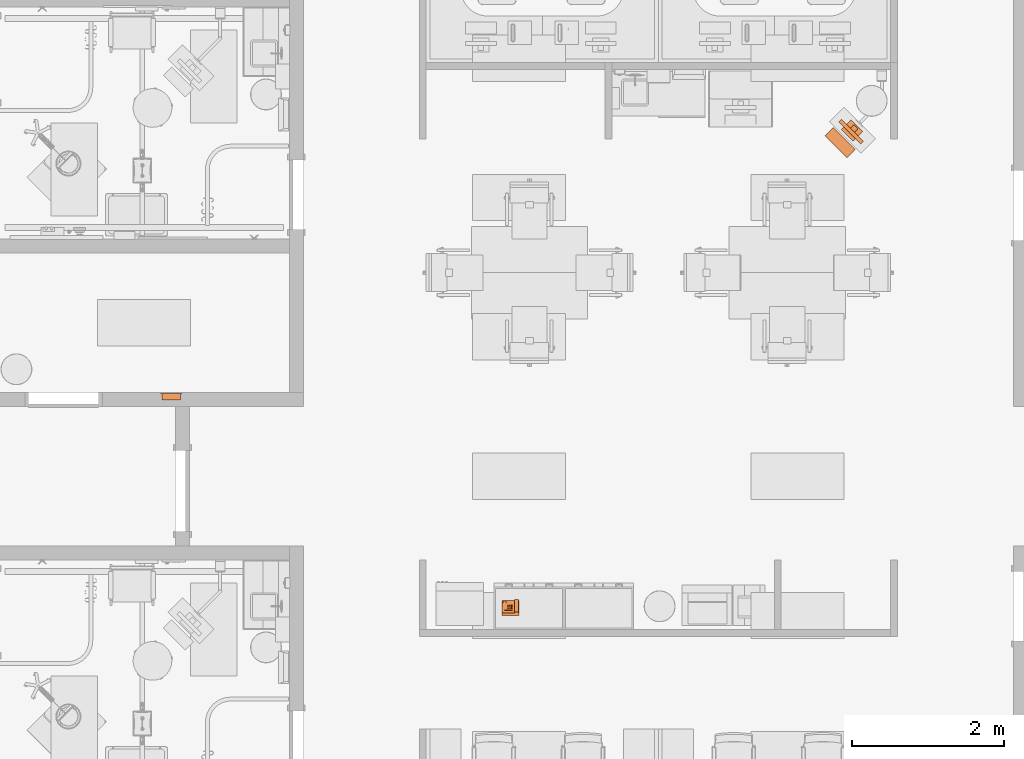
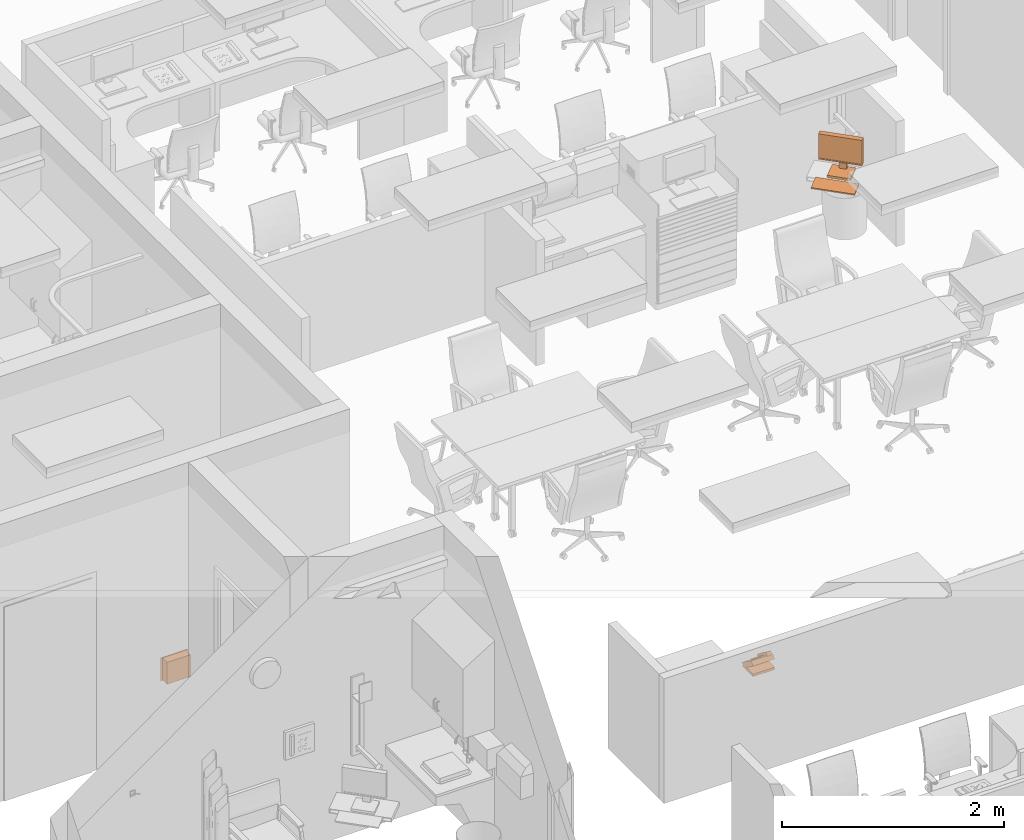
# One storey, part 141 of 142: 3 proxies.
"""IFC2X3 building model written with IfcOpenShell, lengths in feet."""

from ifc_helpers import new_model, entity, si_unit, converted_unit, derived_unit, direction, frame, origin, place, context, subcontext, project, spatial, faceted_brep, source, transform, mapped, type_object, type_shapes, element, save


model = new_model("IFC2X3")

# Units and contexts
model_context = context("Model", 3, precision=0.0001, world=origin(), true_north=direction((6.12303176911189e-17, 1.0)))
body_context = subcontext(model_context, "Body", "Model", "MODEL_VIEW")
ifc_project = project(units=[converted_unit("LENGTHUNIT", "FOOT", entity("IfcRatioMeasure", 0.3048), si_unit("LENGTHUNIT", "METRE"), dimensions=[1, 0, 0, 0, 0, 0, 0]), converted_unit("AREAUNIT", "SQUARE FOOT", entity("IfcRatioMeasure", 0.09290304), si_unit("AREAUNIT", "SQUARE_METRE"), dimensions=[2, 0, 0, 0, 0, 0, 0]), converted_unit("VOLUMEUNIT", "CUBIC FOOT", entity("IfcRatioMeasure", 0.028316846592), si_unit("VOLUMEUNIT", "CUBIC_METRE"), dimensions=[3, 0, 0, 0, 0, 0, 0]), converted_unit("PLANEANGLEUNIT", "DEGREE", entity("IfcRatioMeasure", 0.0174532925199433), si_unit("PLANEANGLEUNIT", "RADIAN"), dimensions=[0, 0, 0, 0, 0, 0, 0]), si_unit("MASSUNIT", "GRAM", prefix="KILO"), derived_unit("MASSDENSITYUNIT", [(si_unit("MASSUNIT", "GRAM", prefix="KILO"), 1), (si_unit("LENGTHUNIT", "METRE"), -3)]), si_unit("TIMEUNIT", "SECOND"), si_unit("FREQUENCYUNIT", "HERTZ"), si_unit("THERMODYNAMICTEMPERATUREUNIT", "DEGREE_CELSIUS"), derived_unit("THERMALTRANSMITTANCEUNIT", [(si_unit("MASSUNIT", "GRAM", prefix="KILO"), 1), (si_unit("THERMODYNAMICTEMPERATUREUNIT", "KELVIN"), -1), (si_unit("TIMEUNIT", "SECOND"), -3)]), derived_unit("VOLUMETRICFLOWRATEUNIT", [(si_unit("LENGTHUNIT", "METRE"), 3), (si_unit("TIMEUNIT", "SECOND"), -1)]), si_unit("ELECTRICCURRENTUNIT", "AMPERE"), si_unit("ELECTRICVOLTAGEUNIT", "VOLT"), si_unit("POWERUNIT", "WATT"), si_unit("FORCEUNIT", "NEWTON"), si_unit("ILLUMINANCEUNIT", "LUX"), si_unit("LUMINOUSFLUXUNIT", "LUMEN"), si_unit("LUMINOUSINTENSITYUNIT", "CANDELA"), derived_unit("USERDEFINED", [(si_unit("MASSUNIT", "GRAM", prefix="KILO"), -1), (si_unit("LENGTHUNIT", "METRE"), -2), (si_unit("TIMEUNIT", "SECOND"), 3), (si_unit("LUMINOUSFLUXUNIT", "LUMEN"), 1)]), derived_unit("LINEARVELOCITYUNIT", [(si_unit("LENGTHUNIT", "METRE"), 1), (si_unit("TIMEUNIT", "SECOND"), -1)]), si_unit("PRESSUREUNIT", "PASCAL"), derived_unit("USERDEFINED", [(si_unit("LENGTHUNIT", "METRE"), -2), (si_unit("MASSUNIT", "GRAM", prefix="KILO"), 1), (si_unit("TIMEUNIT", "SECOND"), -2)])], contexts=[model_context])

# Site, building, storey
site_placement = place(None, origin())
site = spatial("IfcSite", under=ifc_project, at=site_placement, Name="Default", CompositionType="ELEMENT")
building_placement = place(site_placement, origin())
building = spatial("IfcBuilding", under=site, at=building_placement, Name="OUTPATIENT / PACT CLINIC (Ch. 265)", CompositionType="ELEMENT")
storey_placement = place(building_placement, origin())
storey = spatial("IfcBuildingStorey", under=building, at=storey_placement, Name="LEVEL 1", CompositionType="ELEMENT", Elevation=0.0)

# Proxy
building_element_proxy_type_1 = type_object("IfcBuildingElementProxyType", Name="P8710 - Utility Center, Plumbing Connection", PredefinedType="NOTDEFINED")
shared_shape_1 = source(origin(), body_context, "Body", "Brep", [
    faceted_brep([(0.458333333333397, 0.0, 0.833333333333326), (-0.458333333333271, 0.0, 0.833333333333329), (-0.458333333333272, 0.0, 0.0), (0.458333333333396, 0.0, 0.0), (-0.374999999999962, 0.0, 0.749999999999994), (0.375000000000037, 0.0, 0.749999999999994), (0.375000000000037, 0.0, 0.0821071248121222), (-0.374999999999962, 0.0, 0.0821071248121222), (0.458333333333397, 0.0104166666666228, 0.833333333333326), (0.458333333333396, 0.0104166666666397, 0.0), (-0.458333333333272, 0.0104166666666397, 0.0), (-0.458333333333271, 0.0104166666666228, 0.833333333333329), (0.375000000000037, 0.0104166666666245, 0.749999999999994), (-0.374999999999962, 0.0104166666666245, 0.749999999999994), (-0.374999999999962, 0.010416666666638, 0.0821071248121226), (0.375000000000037, 0.010416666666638, 0.0821071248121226)], [[[0, 1, 2, 3], [4, 5, 6, 7]], [[8, 9, 10, 11], [12, 13, 14, 15]], [[1, 0, 8, 11]], [[2, 1, 11, 10]], [[3, 2, 10, 9]], [[0, 3, 9, 8]], [[4, 13, 12, 5]], [[6, 15, 14, 7]], [[13, 4, 7, 14]], [[5, 12, 15, 6]]]),
    faceted_brep([(-0.374999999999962, 0.260416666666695, 0.750000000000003), (0.375000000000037, 0.260416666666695, 0.750000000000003), (0.375000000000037, 0.0104166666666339, 0.749999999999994), (-0.374999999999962, 0.0104166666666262, 0.749999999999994), (0.375000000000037, 0.260416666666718, 0.0821071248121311), (-0.374999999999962, 0.260416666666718, 0.0821071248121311), (-0.374999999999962, 0.0104166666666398, 0.0821071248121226), (0.375000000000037, 0.0104166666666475, 0.0821071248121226), (0.395833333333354, 0.0104166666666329, 0.812499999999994), (0.395833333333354, 0.0104166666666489, 0.0208333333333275), (0.395833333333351, 0.281250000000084, 0.020833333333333), (0.395833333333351, 0.281250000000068, 0.812499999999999), (-0.400504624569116, 0.0104166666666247, 0.812499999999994), (-0.400504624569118, 0.28125000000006, 0.812499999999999), (-0.400504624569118, 0.281250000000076, 0.020833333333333), (-0.400504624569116, 0.0104166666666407, 0.0208333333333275)], [[[0, 1, 2, 3]], [[4, 5, 6, 7]], [[5, 0, 3, 6]], [[1, 0, 5, 4]], [[1, 4, 7, 2]], [[8, 9, 10, 11]], [[12, 13, 14, 15]], [[3, 2, 7, 6], [9, 8, 12, 15]], [[10, 9, 15, 14]], [[11, 10, 14, 13]], [[8, 11, 13, 12]]], outer=[[True], [True], [True], [True], [True], [True], [True], [False, True], [True], [True], [True]]),
])
type_shapes(building_element_proxy_type_1, [shared_shape_1])
proxy_1_placement = place(storey_placement, frame((398.379976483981, -903.680935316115, 2.0), z_axis=(0.0, 0.0, 1.0), x_axis=(-1.0, 0.0, 0.0)))
element("IfcBuildingElementProxy", 1, at=proxy_1_placement, inside=storey, type_object=building_element_proxy_type_1, Name="P8710 - Utility Center, Plumbing Connection:P8710 - Utility Center, Plumbing Connection", ObjectType="P8710 - Utility Center, Plumbing Connection", context=body_context, shape_type="MappedRepresentation", body=[
    mapped(shared_shape_1, transform((0.0, 0.0, 0.0), scale=1.0)),
])

# Space
space_1_placement = place(storey_placement, origin())
space_1 = spatial("IfcSpace", under=storey, at=space_1_placement, Name="RCA06", CompositionType="ELEMENT", InteriorOrExteriorSpace="INTERNAL")

# Proxy
building_element_proxy_type_2 = type_object("IfcBuildingElementProxyType", Name="M1801 - Computer with Flat Panel Monitor 2", PredefinedType="NOTDEFINED")
shared_shape_2 = source(origin(), body_context, "Body", "Brep", [
    faceted_brep([(0.666666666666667, -0.5625, 0.0), (0.666666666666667, -0.0624999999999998, 0.0), (0.666666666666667, -0.0624999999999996, 0.0833333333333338), (0.666666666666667, -0.5625, 0.0416666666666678), (-0.666666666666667, -0.5625, 0.0), (-0.666666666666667, -0.5625, 0.0416666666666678), (-0.666666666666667, -0.0624999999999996, 0.0833333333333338), (-0.666666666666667, -0.0624999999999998, 0.0)], [[[0, 1, 2, 3]], [[4, 5, 6, 7]], [[1, 0, 4, 7]], [[2, 1, 7, 6]], [[3, 2, 6, 5]], [[0, 3, 5, 4]]]),
    faceted_brep([(0.666666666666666, 0.437223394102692, 1.41666666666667), (-0.666666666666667, 0.437223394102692, 1.41666666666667), (-0.666666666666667, 0.271109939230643, 1.41666666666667), (0.666666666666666, 0.271109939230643, 1.41666666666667), (0.666666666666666, 0.437223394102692, 0.500000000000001), (0.666666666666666, 0.271109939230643, 0.500000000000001), (-0.666666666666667, 0.271109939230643, 0.500000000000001), (-0.666666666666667, 0.437223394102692, 0.500000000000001), (-0.625, 0.271109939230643, 1.375), (0.625, 0.271109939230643, 1.375), (0.625, 0.271109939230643, 0.541666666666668), (-0.625, 0.271109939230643, 0.541666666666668), (0.625, 0.286812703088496, 1.375), (-0.625, 0.286812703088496, 1.375), (0.625, 0.286812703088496, 0.541666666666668), (-0.625, 0.286812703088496, 0.541666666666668)], [[[0, 1, 2, 3]], [[4, 5, 6, 7]], [[1, 0, 4, 7]], [[2, 1, 7, 6]], [[3, 2, 6, 5], [8, 9, 10, 11]], [[0, 3, 5, 4]], [[12, 9, 8, 13]], [[14, 15, 11, 10]], [[12, 13, 15, 14]], [[13, 8, 11, 15]], [[9, 12, 14, 10]]]),
    faceted_brep([(0.358011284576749, 0.111770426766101, 0.0833333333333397), (0.358011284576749, 0.111770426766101, 0.0), (0.358011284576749, 0.708333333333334, 0.0), (0.358011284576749, 0.708333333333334, 0.0833333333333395), (-0.358011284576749, 0.708333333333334, 0.0833333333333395), (-0.358011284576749, 0.708333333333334, 0.0), (-0.358011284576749, 0.111770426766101, 0.0), (-0.358011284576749, 0.111770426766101, 0.0833333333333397), (0.12128795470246, 0.645556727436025, 0.104166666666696), (0.12128795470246, 0.645556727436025, 0.0833333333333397), (-0.12128795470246, 0.645556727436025, 0.0833333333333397), (-0.12128795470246, 0.645556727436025, 0.104166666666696), (0.12128795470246, 0.645556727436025, 0.958333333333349), (-0.12128795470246, 0.645556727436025, 0.958333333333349), (0.12128795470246, 0.437223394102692, 0.958333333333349), (-0.12128795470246, 0.437223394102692, 0.958333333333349), (0.12128795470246, 0.437223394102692, 0.791666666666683), (-0.12128795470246, 0.437223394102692, 0.791666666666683), (0.12128795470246, 0.562223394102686, 0.791666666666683), (-0.12128795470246, 0.562223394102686, 0.791666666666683), (0.12128795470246, 0.562223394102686, 0.0833333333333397), (-0.12128795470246, 0.562223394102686, 0.0833333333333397)], [[[0, 1, 2, 3]], [[4, 5, 6, 7]], [[8, 9, 10, 11]], [[12, 8, 11, 13]], [[14, 12, 13, 15]], [[16, 14, 15, 17]], [[18, 16, 17, 19]], [[20, 18, 19, 21]], [[0, 3, 4, 7], [9, 20, 21, 10]], [[1, 0, 7, 6]], [[2, 1, 6, 5]], [[3, 2, 5, 4]], [[20, 9, 8, 12, 14, 16, 18]], [[10, 21, 19, 17, 15, 13, 11]]]),
])
type_shapes(building_element_proxy_type_2, [shared_shape_2])
proxy_2_placement = place(space_1_placement, frame((427.40956308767, -892.643193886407, 3.0), z_axis=(0.0, 0.0, 1.0), x_axis=(0.707106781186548, -0.707106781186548, 0.0)))
element("IfcBuildingElementProxy", 2, at=proxy_2_placement, inside=space_1, type_object=building_element_proxy_type_2, Name="M1801 - Computer with Flat Panel Monitor1:M1801 - Computer with Flat Panel Monitor 2", ObjectType="M1801 - Computer with Flat Panel Monitor 2", context=body_context, shape_type="MappedRepresentation", body=[
    mapped(shared_shape_2, transform((0.0, 0.0, 0.0), scale=1.0)),
])

# Space
space_2_placement = place(storey_placement, origin())
space_2 = spatial("IfcSpace", under=storey, at=space_2_placement, Name="RCA02", CompositionType="ELEMENT", InteriorOrExteriorSpace="INTERNAL")

# Proxy
building_element_proxy_type_3 = type_object("IfcBuildingElementProxyType", Name="A1011 - Telephone, Desk, 1 Line", PredefinedType="NOTDEFINED")
shared_shape_3 = source(origin(), body_context, "Body", "Brep", [
    faceted_brep([(0.700520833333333, 0.261320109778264, 0.451787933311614), (0.700520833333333, 0.572560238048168, 0.223329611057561), (0.700520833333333, 0.538332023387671, 0.176698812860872), (0.700520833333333, 0.629478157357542, 0.109798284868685), (0.700520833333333, 0.699689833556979, 0.205455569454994), (0.700520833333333, 0.163563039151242, 0.598968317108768), (0.700520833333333, 0.0904130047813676, 0.494499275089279), (0.700520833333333, 0.225161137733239, 0.400147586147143), (0.532645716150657, 0.261320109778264, 0.451787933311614), (0.532645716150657, 0.225161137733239, 0.400147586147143), (0.532645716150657, 0.0904130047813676, 0.494499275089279), (0.532645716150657, 0.163563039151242, 0.598968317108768), (0.532645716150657, 0.699689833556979, 0.205455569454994), (0.532645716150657, 0.629478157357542, 0.109798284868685), (0.532645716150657, 0.538332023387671, 0.176698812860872), (0.532645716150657, 0.572560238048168, 0.223329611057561)], [[[0, 1, 2, 3, 4, 5, 6, 7]], [[8, 9, 10, 11, 12, 13, 14, 15]], [[1, 0, 8, 15]], [[2, 1, 15, 14]], [[3, 2, 14, 13]], [[4, 3, 13, 12]], [[5, 4, 12, 11]], [[6, 5, 11, 10]], [[7, 6, 10, 9]], [[0, 7, 9, 8]]]),
    faceted_brep([(0.394413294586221, 0.457472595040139, 0.295395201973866), (0.441288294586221, 0.457472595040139, 0.295395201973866), (0.441288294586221, 0.496153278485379, 0.268310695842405), (0.394413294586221, 0.496153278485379, 0.268310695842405), (0.394413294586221, 0.44253570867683, 0.274063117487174), (0.394413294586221, 0.481216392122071, 0.246978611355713), (0.441288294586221, 0.481216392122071, 0.246978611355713), (0.441288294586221, 0.44253570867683, 0.274063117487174)], [[[0, 1, 2, 3]], [[4, 5, 6, 7]], [[1, 0, 4, 7]], [[2, 1, 7, 6]], [[3, 2, 6, 5]], [[0, 3, 5, 4]]]),
    faceted_brep([(0.394413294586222, 0.525735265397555, 0.247597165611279), (0.441288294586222, 0.525735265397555, 0.247597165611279), (0.441288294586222, 0.564415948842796, 0.220512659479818), (0.394413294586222, 0.564415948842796, 0.220512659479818), (0.394413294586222, 0.510798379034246, 0.226265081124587), (0.394413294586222, 0.549479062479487, 0.199180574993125), (0.441288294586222, 0.549479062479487, 0.199180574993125), (0.441288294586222, 0.510798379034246, 0.226265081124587)], [[[0, 1, 2, 3]], [[4, 5, 6, 7]], [[1, 0, 4, 7]], [[2, 1, 7, 6]], [[3, 2, 6, 5]], [[0, 3, 5, 4]]]),
    faceted_brep([(0.311079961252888, 0.525735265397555, 0.247597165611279), (0.357954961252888, 0.525735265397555, 0.247597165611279), (0.357954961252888, 0.564415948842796, 0.220512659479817), (0.311079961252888, 0.564415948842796, 0.220512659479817), (0.311079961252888, 0.510798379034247, 0.226265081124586), (0.311079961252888, 0.549479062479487, 0.199180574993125), (0.357954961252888, 0.549479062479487, 0.199180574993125), (0.357954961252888, 0.510798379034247, 0.226265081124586)], [[[0, 1, 2, 3]], [[4, 5, 6, 7]], [[1, 0, 4, 7]], [[2, 1, 7, 6]], [[3, 2, 6, 5]], [[0, 3, 5, 4]]]),
    faceted_brep([(0.227746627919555, 0.525735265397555, 0.247597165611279), (0.274621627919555, 0.525735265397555, 0.247597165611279), (0.274621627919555, 0.564415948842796, 0.220512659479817), (0.227746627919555, 0.564415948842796, 0.220512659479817), (0.227746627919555, 0.510798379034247, 0.226265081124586), (0.227746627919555, 0.549479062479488, 0.199180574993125), (0.274621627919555, 0.549479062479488, 0.199180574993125), (0.274621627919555, 0.510798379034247, 0.226265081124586)], [[[0, 1, 2, 3]], [[4, 5, 6, 7]], [[1, 0, 4, 7]], [[2, 1, 7, 6]], [[3, 2, 6, 5]], [[0, 3, 5, 4]]]),
    faceted_brep([(0.227746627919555, 0.45747259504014, 0.295395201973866), (0.274621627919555, 0.45747259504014, 0.295395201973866), (0.274621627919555, 0.49615327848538, 0.268310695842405), (0.227746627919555, 0.49615327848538, 0.268310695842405), (0.227746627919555, 0.442535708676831, 0.274063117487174), (0.227746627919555, 0.481216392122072, 0.246978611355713), (0.274621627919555, 0.481216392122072, 0.246978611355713), (0.274621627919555, 0.442535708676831, 0.274063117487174)], [[[0, 1, 2, 3]], [[4, 5, 6, 7]], [[1, 0, 4, 7]], [[2, 1, 7, 6]], [[3, 2, 6, 5]], [[0, 3, 5, 4]]]),
    faceted_brep([(0.311079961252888, 0.389209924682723, 0.343193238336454), (0.357954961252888, 0.389209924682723, 0.343193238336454), (0.357954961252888, 0.427890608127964, 0.316108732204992), (0.311079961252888, 0.427890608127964, 0.316108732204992), (0.311079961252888, 0.374273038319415, 0.321861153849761), (0.311079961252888, 0.412953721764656, 0.2947766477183), (0.357954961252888, 0.412953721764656, 0.2947766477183), (0.357954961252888, 0.374273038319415, 0.321861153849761)], [[[0, 1, 2, 3]], [[4, 5, 6, 7]], [[1, 0, 4, 7]], [[2, 1, 7, 6]], [[3, 2, 6, 5]], [[0, 3, 5, 4]]]),
    faceted_brep([(0.227746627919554, 0.389209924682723, 0.343193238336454), (0.274621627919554, 0.389209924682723, 0.343193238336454), (0.274621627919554, 0.427890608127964, 0.316108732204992), (0.227746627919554, 0.427890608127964, 0.316108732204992), (0.227746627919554, 0.374273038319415, 0.321861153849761), (0.227746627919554, 0.412953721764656, 0.2947766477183), (0.274621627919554, 0.412953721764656, 0.2947766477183), (0.274621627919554, 0.374273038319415, 0.321861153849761)], [[[0, 1, 2, 3]], [[4, 5, 6, 7]], [[1, 0, 4, 7]], [[2, 1, 7, 6]], [[3, 2, 6, 5]], [[0, 3, 5, 4]]]),
    faceted_brep([(0.311079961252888, 0.457472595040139, 0.295395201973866), (0.357954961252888, 0.457472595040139, 0.295395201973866), (0.357954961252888, 0.49615327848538, 0.268310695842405), (0.311079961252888, 0.49615327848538, 0.268310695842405), (0.311079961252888, 0.442535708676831, 0.274063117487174), (0.311079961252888, 0.481216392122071, 0.246978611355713), (0.357954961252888, 0.481216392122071, 0.246978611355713), (0.357954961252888, 0.442535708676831, 0.274063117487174)], [[[0, 1, 2, 3]], [[4, 5, 6, 7]], [[1, 0, 4, 7]], [[2, 1, 7, 6]], [[3, 2, 6, 5]], [[0, 3, 5, 4]]]),
    faceted_brep([(0.394413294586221, 0.389209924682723, 0.343193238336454), (0.441288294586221, 0.389209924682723, 0.343193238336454), (0.441288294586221, 0.427890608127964, 0.316108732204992), (0.394413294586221, 0.427890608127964, 0.316108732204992), (0.394413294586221, 0.374273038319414, 0.321861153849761), (0.394413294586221, 0.412953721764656, 0.2947766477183), (0.441288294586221, 0.412953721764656, 0.2947766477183), (0.441288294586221, 0.374273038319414, 0.321861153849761)], [[[0, 1, 2, 3]], [[4, 5, 6, 7]], [[1, 0, 4, 7]], [[2, 1, 7, 6]], [[3, 2, 6, 5]], [[0, 3, 5, 4]]]),
    faceted_brep([(0.227746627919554, 0.320947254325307, 0.390991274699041), (0.274621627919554, 0.320947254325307, 0.390991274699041), (0.274621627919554, 0.359627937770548, 0.363906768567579), (0.227746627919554, 0.359627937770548, 0.363906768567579), (0.227746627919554, 0.306010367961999, 0.369659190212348), (0.227746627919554, 0.344691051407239, 0.342574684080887), (0.274621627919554, 0.344691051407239, 0.342574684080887), (0.274621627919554, 0.306010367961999, 0.369659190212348)], [[[0, 1, 2, 3]], [[4, 5, 6, 7]], [[1, 0, 4, 7]], [[2, 1, 7, 6]], [[3, 2, 6, 5]], [[0, 3, 5, 4]]]),
    faceted_brep([(0.311079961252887, 0.320947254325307, 0.390991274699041), (0.357954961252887, 0.320947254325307, 0.390991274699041), (0.357954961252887, 0.359627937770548, 0.363906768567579), (0.311079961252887, 0.359627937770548, 0.363906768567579), (0.311079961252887, 0.306010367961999, 0.369659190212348), (0.311079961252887, 0.344691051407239, 0.342574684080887), (0.357954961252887, 0.344691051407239, 0.342574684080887), (0.357954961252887, 0.306010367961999, 0.369659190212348)], [[[0, 1, 2, 3]], [[4, 5, 6, 7]], [[1, 0, 4, 7]], [[2, 1, 7, 6]], [[3, 2, 6, 5]], [[0, 3, 5, 4]]]),
    faceted_brep([(0.394413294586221, 0.320947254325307, 0.390991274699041), (0.441288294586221, 0.320947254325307, 0.390991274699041), (0.441288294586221, 0.359627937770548, 0.36390676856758), (0.394413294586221, 0.359627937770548, 0.36390676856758), (0.394413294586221, 0.306010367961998, 0.369659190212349), (0.394413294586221, 0.344691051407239, 0.342574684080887), (0.441288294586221, 0.344691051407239, 0.342574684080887), (0.441288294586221, 0.306010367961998, 0.369659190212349)], [[[0, 1, 2, 3]], [[4, 5, 6, 7]], [[1, 0, 4, 7]], [[2, 1, 7, 6]], [[3, 2, 6, 5]], [[0, 3, 5, 4]]]),
    faceted_brep([(0.0978645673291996, 0.151400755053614, 0.446127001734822), (0.441208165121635, 0.151400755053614, 0.446127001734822), (0.441208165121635, 0.219663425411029, 0.398328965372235), (0.0978645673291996, 0.219663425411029, 0.398328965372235), (0.185000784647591, 0.504682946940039, 0.198756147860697), (0.189127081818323, 0.519491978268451, 0.188386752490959), (0.193253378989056, 0.534301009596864, 0.17801735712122), (0.189272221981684, 0.548589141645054, 0.168012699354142), (0.185000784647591, 0.563919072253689, 0.157278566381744), (0.173439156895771, 0.575794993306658, 0.148962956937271), (0.161877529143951, 0.587670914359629, 0.140647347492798), (0.145170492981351, 0.594261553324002, 0.136032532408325), (0.128463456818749, 0.600852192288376, 0.131417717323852), (0.109920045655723, 0.600852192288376, 0.131417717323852), (0.091376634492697, 0.600852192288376, 0.131417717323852), (0.0746695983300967, 0.594261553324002, 0.136032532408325), (0.0579625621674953, 0.587670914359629, 0.140647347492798), (0.0464009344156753, 0.575794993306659, 0.14896295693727), (0.0348393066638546, 0.563919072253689, 0.157278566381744), (0.0307130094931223, 0.549110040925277, 0.167647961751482), (0.0265867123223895, 0.534301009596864, 0.17801735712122), (0.0305678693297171, 0.520012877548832, 0.188022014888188), (0.0348393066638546, 0.504682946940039, 0.198756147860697), (0.0464009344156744, 0.492807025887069, 0.20707175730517), (0.0579625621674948, 0.480931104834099, 0.215387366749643), (0.0746695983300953, 0.474340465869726, 0.220002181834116), (0.0913766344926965, 0.467749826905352, 0.224616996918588), (0.109920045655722, 0.467749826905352, 0.224616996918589), (0.128463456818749, 0.467749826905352, 0.224616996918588), (0.145170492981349, 0.474340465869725, 0.220002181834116), (0.16187752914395, 0.480931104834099, 0.215387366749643), (0.17343915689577, 0.492807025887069, 0.20707175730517), (0.597435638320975, 0.222563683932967, 0.396298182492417), (0.580728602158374, 0.215973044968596, 0.400912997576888), (0.564021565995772, 0.209382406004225, 0.40552781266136), (0.55245993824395, 0.197506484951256, 0.413843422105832), (0.540898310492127, 0.185630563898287, 0.422159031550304), (0.536626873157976, 0.170300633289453, 0.432893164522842), (0.532645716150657, 0.156012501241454, 0.442897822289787), (0.532645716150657, 0.0877498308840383, 0.490695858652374), (0.699312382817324, 0.0877498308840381, 0.490695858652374), (0.699312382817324, 0.156012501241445, 0.442897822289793), (0.695331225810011, 0.170300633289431, 0.432893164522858), (0.691059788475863, 0.18563056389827, 0.422159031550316), (0.679498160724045, 0.197506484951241, 0.413843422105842), (0.667936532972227, 0.209382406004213, 0.405527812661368), (0.651229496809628, 0.215973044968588, 0.400912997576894), (0.634522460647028, 0.222563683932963, 0.39629818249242), (0.615979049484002, 0.222563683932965, 0.396298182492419), (0.532645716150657, 0.631984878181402, 0.109618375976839), (0.532645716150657, 0.582654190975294, 0.144160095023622), (0.54428953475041, 0.56753355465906, 0.154747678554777), (0.555933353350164, 0.552412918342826, 0.165335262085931), (0.575043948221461, 0.543778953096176, 0.171380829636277), (0.594154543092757, 0.535144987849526, 0.177426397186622), (0.61597904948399, 0.535144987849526, 0.177426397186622), (0.637803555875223, 0.535144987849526, 0.177426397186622), (0.65691415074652, 0.543778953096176, 0.171380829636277), (0.676024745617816, 0.552412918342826, 0.165335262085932), (0.689551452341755, 0.569978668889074, 0.153035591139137), (0.699312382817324, 0.582654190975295, 0.144160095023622), (0.699312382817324, 0.631984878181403, 0.10961837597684), (0.739583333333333, 0.584951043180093, 0.0535656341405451), (0.739583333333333, 0.648788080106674, 0.129643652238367), (0.739583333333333, 0.102686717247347, 0.512027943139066), (0.739583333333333, 0.00709064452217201, 0.375502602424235), (0.739583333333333, 0.416666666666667, 0.0887143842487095), (0.739583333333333, 0.0, 0.0887143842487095), (0.739583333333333, 0.0, 0.0), (0.739583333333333, 0.648788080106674, 0.0), (0.0, 0.416666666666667, 0.0887143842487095), (0.0, 0.00709064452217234, 0.375502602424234), (0.0, 0.102686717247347, 0.512027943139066), (0.0, 0.648788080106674, 0.129643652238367), (0.0, 0.584951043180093, 0.0535656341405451), (0.0, 0.648788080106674, 0.0), (0.0, 0.0, 0.0), (0.0, 0.0, 0.0887143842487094), (0.532645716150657, 0.648788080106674, 0.129643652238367), (0.699312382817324, 0.648788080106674, 0.129643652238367), (0.699312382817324, 0.597591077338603, 0.165492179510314), (0.688147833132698, 0.205080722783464, 0.44033088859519), (0.68766856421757, 0.582470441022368, 0.176079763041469), (0.676024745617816, 0.567349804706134, 0.186667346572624), (0.67289677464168, 0.217573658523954, 0.431583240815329), (0.657645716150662, 0.230066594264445, 0.422835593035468), (0.65691415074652, 0.558715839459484, 0.192712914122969), (0.637803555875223, 0.550081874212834, 0.198758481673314), (0.636812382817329, 0.234639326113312, 0.41963373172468), (0.615979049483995, 0.239212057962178, 0.416431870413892), (0.61597904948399, 0.550081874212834, 0.198758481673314), (0.594154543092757, 0.550081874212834, 0.198758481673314), (0.595145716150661, 0.234639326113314, 0.419633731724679), (0.574312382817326, 0.230066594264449, 0.422835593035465), (0.441208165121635, 0.234600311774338, 0.419661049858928), (0.575043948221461, 0.558715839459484, 0.192712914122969), (0.555933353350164, 0.567349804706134, 0.186667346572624), (0.182088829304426, 0.515106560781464, 0.223248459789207), (0.187671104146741, 0.532172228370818, 0.21129895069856), (0.193253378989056, 0.549237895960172, 0.199349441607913), (0.542406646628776, 0.58491555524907, 0.174367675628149), (0.532645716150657, 0.597591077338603, 0.165492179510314), (0.187671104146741, 0.566303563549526, 0.187399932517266), (0.182088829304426, 0.583369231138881, 0.175450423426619), (0.166837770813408, 0.595862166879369, 0.16670277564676), (0.15158671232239, 0.608355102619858, 0.1579551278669), (0.130753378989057, 0.612927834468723, 0.154753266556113), (0.109920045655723, 0.617500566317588, 0.151551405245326), (0.0890867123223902, 0.612927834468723, 0.154753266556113), (0.0682533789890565, 0.608355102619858, 0.1579551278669), (0.0530023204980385, 0.59586216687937, 0.166702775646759), (0.0377512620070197, 0.583369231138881, 0.175450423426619), (0.0321689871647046, 0.566303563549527, 0.187399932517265), (0.0265867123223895, 0.549237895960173, 0.199349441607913), (0.0321689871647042, 0.53217222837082, 0.211298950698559), (0.0377512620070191, 0.515106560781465, 0.223248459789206), (0.0978645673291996, 0.234600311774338, 0.419661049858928), (0.0978645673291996, 0.166337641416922, 0.467459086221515), (0.532645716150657, 0.102686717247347, 0.512027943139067), (0.441208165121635, 0.166337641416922, 0.467459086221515), (0.532645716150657, 0.170949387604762, 0.46422990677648), (0.538227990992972, 0.188015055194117, 0.452280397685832), (0.543810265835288, 0.205080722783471, 0.440330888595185), (0.559061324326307, 0.21757365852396, 0.431583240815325), (0.151586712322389, 0.490120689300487, 0.240743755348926), (0.130753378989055, 0.485547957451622, 0.243945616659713), (0.0530023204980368, 0.502613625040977, 0.231996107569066), (0.0682533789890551, 0.490120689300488, 0.240743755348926), (0.0890867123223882, 0.485547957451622, 0.243945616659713), (0.109920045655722, 0.480975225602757, 0.2471474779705), (0.166837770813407, 0.502613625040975, 0.231996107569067), (0.693730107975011, 0.188015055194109, 0.452280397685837), (0.699312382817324, 0.170949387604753, 0.464229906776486), (0.699312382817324, 0.102686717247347, 0.512027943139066)], [[[0, 1, 2, 3]], [[4, 5, 6, 7, 8, 9, 10, 11, 12, 13, 14, 15, 16, 17, 18, 19, 20, 21, 22, 23, 24, 25, 26, 27, 28, 29, 30, 31]], [[32, 33, 34, 35, 36, 37, 38, 39, 40, 41, 42, 43, 44, 45, 46, 47, 48]], [[49, 50, 51, 52, 53, 54, 55, 56, 57, 58, 59, 60, 61]], [[62, 63, 64, 65, 66, 67, 68, 69]], [[70, 71, 72, 73, 74, 75, 76, 77]], [[62, 69, 75, 74]], [[62, 74, 73, 78, 49, 61, 79, 63]], [[63, 79, 80]], [[63, 80, 81]], [[81, 64, 63]], [[81, 80, 82]], [[81, 82, 83]], [[83, 84, 81]], [[83, 85, 84]], [[85, 83, 86]], [[85, 86, 87]], [[87, 88, 85]], [[87, 89, 88]], [[89, 87, 90]], [[89, 90, 91]], [[91, 92, 89]], [[91, 93, 92]], [[93, 91, 94]], [[94, 91, 95]], [[94, 95, 96]], [[96, 97, 94]], [[96, 98, 97]], [[96, 99, 98]], [[99, 96, 100]], [[99, 100, 101]], [[101, 102, 99]], [[101, 103, 102]], [[101, 78, 103]], [[78, 104, 103]], [[78, 105, 104]], [[78, 106, 105]], [[78, 107, 106]], [[78, 73, 107]], [[73, 108, 107]], [[73, 109, 108]], [[73, 110, 109]], [[73, 111, 110]], [[73, 112, 111]], [[73, 113, 112]], [[73, 72, 113]], [[72, 114, 113]], [[72, 115, 114]], [[115, 72, 116]], [[116, 72, 117]], [[72, 118, 117]], [[117, 118, 119]], [[119, 118, 120]], [[119, 120, 121]], [[119, 121, 122]], [[94, 122, 123]], [[94, 119, 122]], [[94, 123, 93]], [[94, 124, 116]], [[116, 124, 125]], [[116, 126, 115]], [[116, 127, 126]], [[116, 128, 127]], [[116, 129, 128]], [[116, 125, 129]], [[94, 97, 130]], [[94, 130, 124]], [[64, 81, 131]], [[64, 131, 132]], [[133, 64, 132]], [[64, 133, 40, 39, 118, 72, 71, 65]], [[66, 65, 71, 70]], [[67, 66, 70, 77]], [[68, 67, 77, 76]], [[69, 68, 76, 75]], [[0, 117, 119, 1]], [[2, 1, 119, 94]], [[2, 94, 116, 3]], [[3, 116, 117, 0]], [[8, 102, 103]], [[14, 107, 108]], [[9, 104, 10]], [[7, 102, 8]], [[7, 99, 102]], [[106, 11, 105]], [[8, 103, 9]], [[11, 106, 12]], [[19, 18, 112]], [[109, 15, 108]], [[7, 6, 99]], [[106, 107, 12]], [[109, 110, 16]], [[109, 16, 15]], [[111, 18, 17]], [[20, 19, 113]], [[104, 105, 10]], [[17, 16, 110]], [[11, 10, 105]], [[110, 111, 17]], [[19, 112, 113]], [[104, 9, 103]], [[14, 13, 12, 107]], [[14, 108, 15]], [[112, 18, 111]], [[22, 114, 115]], [[28, 129, 125]], [[23, 126, 24]], [[21, 114, 22]], [[21, 113, 114]], [[128, 25, 127]], [[22, 115, 23]], [[25, 128, 26]], [[5, 4, 98]], [[124, 29, 125]], [[21, 20, 113]], [[128, 129, 26]], [[124, 130, 30]], [[124, 30, 29]], [[97, 4, 31]], [[6, 5, 99]], [[126, 127, 24]], [[31, 30, 130]], [[25, 24, 127]], [[130, 97, 31]], [[5, 98, 99]], [[126, 23, 115]], [[28, 27, 26, 129]], [[28, 125, 29]], [[98, 4, 97]], [[40, 133, 132, 41]], [[61, 60, 80, 79]], [[42, 41, 132]], [[32, 89, 92]], [[93, 33, 92]], [[44, 84, 45]], [[42, 131, 43]], [[81, 43, 131]], [[88, 46, 85]], [[43, 81, 44]], [[46, 88, 47]], [[131, 42, 132]], [[32, 92, 33]], [[122, 36, 35]], [[122, 35, 123]], [[32, 48, 47, 89]], [[93, 34, 33]], [[122, 121, 36]], [[120, 38, 37]], [[93, 123, 34]], [[84, 44, 81]], [[34, 123, 35]], [[121, 120, 37]], [[84, 85, 45]], [[89, 47, 88]], [[46, 45, 85]], [[37, 36, 121]], [[38, 120, 118, 39]], [[49, 78, 101, 50]], [[52, 51, 50, 101, 100, 96]], [[80, 60, 59, 58, 83, 82]], [[96, 95, 91, 54, 53, 52]], [[56, 55, 54, 91, 90, 87]], [[87, 86, 83, 58, 57, 56]]]),
])
type_shapes(building_element_proxy_type_3, [shared_shape_3])
proxy_3_placement = place(space_2_placement, frame((412.627562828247, -913.235973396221, 2.79155996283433)))
element("IfcBuildingElementProxy", 3, at=proxy_3_placement, inside=space_2, type_object=building_element_proxy_type_3, Name="A1011 - Telephone, Desk, 1 Line:A1011 - Telephone, Desk, 1 Line", ObjectType="A1011 - Telephone, Desk, 1 Line", context=body_context, shape_type="MappedRepresentation", body=[
    mapped(shared_shape_3, transform((0.0, 0.0, 0.0), scale=1.0)),
])

save(model, "model.ifc")
